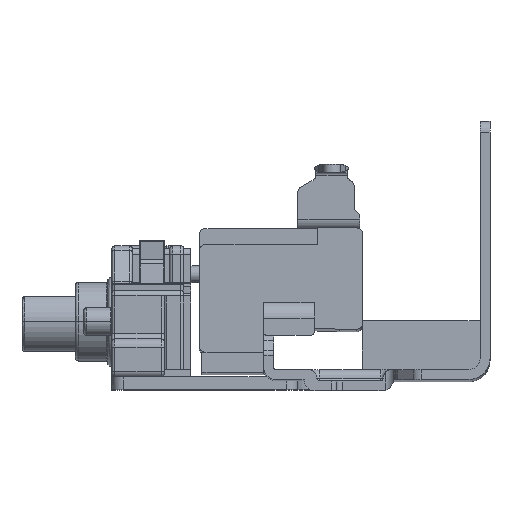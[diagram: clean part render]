
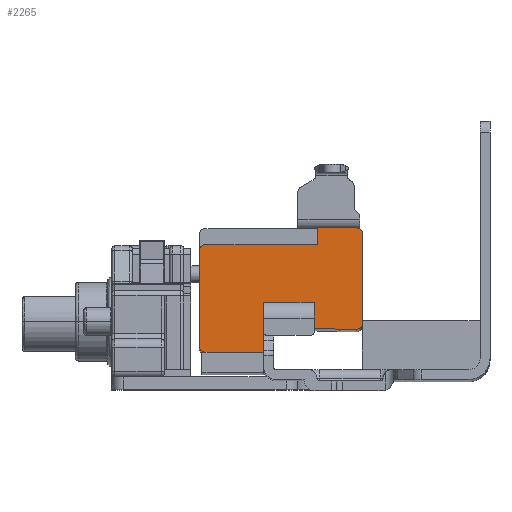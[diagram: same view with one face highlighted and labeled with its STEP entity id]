
A CAD part, top view. The second image highlights one B-rep face of the part: STEP entity #2265.
In plain terms, the highlighted planar face has unit normal (0, 0, 1).
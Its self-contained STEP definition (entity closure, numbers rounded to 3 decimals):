
#111 = EDGE_CURVE ( 'NONE', #4238, #11087, #10641, .T. ) ;
#129 = DIRECTION ( 'NONE',  ( -1., 0., 0. ) ) ;
#180 = DIRECTION ( 'NONE',  ( 1., 0., 0. ) ) ;
#219 = EDGE_CURVE ( 'NONE', #11087, #12393, #5636, .T. ) ;
#357 = AXIS2_PLACEMENT_3D ( 'NONE', #11748, #3433, #13165 ) ;
#392 = VERTEX_POINT ( 'NONE', #7450 ) ;
#408 = DIRECTION ( 'NONE',  ( 0., 1., 0. ) ) ;
#458 = ORIENTED_EDGE ( 'NONE', *, *, #13983, .F. ) ;
#497 = ORIENTED_EDGE ( 'NONE', *, *, #219, .T. ) ;
#614 = VECTOR ( 'NONE', #1026, 1000. ) ;
#852 = DIRECTION ( 'NONE',  ( 0., 0., 1. ) ) ;
#936 = VERTEX_POINT ( 'NONE', #13074 ) ;
#1026 = DIRECTION ( 'NONE',  ( -1., 0., 0. ) ) ;
#1141 = VERTEX_POINT ( 'NONE', #8180 ) ;
#1375 = CARTESIAN_POINT ( 'NONE',  ( -72.63, -13.752, -15.97 ) ) ;
#1601 = ORIENTED_EDGE ( 'NONE', *, *, #9118, .F. ) ;
#1666 = ORIENTED_EDGE ( 'NONE', *, *, #10117, .F. ) ;
#1751 = CARTESIAN_POINT ( 'NONE',  ( -71.66, -0.252, -15.97 ) ) ;
#1811 = CARTESIAN_POINT ( 'NONE',  ( -43.6, 1.748, -15.97 ) ) ;
#1894 = CARTESIAN_POINT ( 'NONE',  ( -47.67, -15.252, -15.97 ) ) ;
#1940 = VECTOR ( 'NONE', #16917, 1000. ) ;
#1994 = AXIS2_PLACEMENT_3D ( 'NONE', #6891, #16671, #8300 ) ;
#2265 = ADVANCED_FACE ( 'NONE', ( #3869 ), #17532, .T. ) ;
#2323 = EDGE_CURVE ( 'NONE', #9808, #9084, #10384, .T. ) ;
#2502 = CARTESIAN_POINT ( 'NONE',  ( -43.6, -6.222, -15.97 ) ) ;
#2531 = VERTEX_POINT ( 'NONE', #1751 ) ;
#2638 = CARTESIAN_POINT ( 'NONE',  ( -51.6, -0.252, -15.97 ) ) ;
#2831 = AXIS2_PLACEMENT_3D ( 'NONE', #5687, #15460, #7073 ) ;
#2980 = CARTESIAN_POINT ( 'NONE',  ( -72.63, -1.222, -15.97 ) ) ;
#3230 = CARTESIAN_POINT ( 'NONE',  ( -52.2, -10.442, -15.97 ) ) ;
#3433 = DIRECTION ( 'NONE',  ( 0., 0., -1. ) ) ;
#3502 = ORIENTED_EDGE ( 'NONE', *, *, #111, .T. ) ;
#3573 = CARTESIAN_POINT ( 'NONE',  ( -71.63, -13.752, -15.97 ) ) ;
#3581 = EDGE_CURVE ( 'NONE', #392, #4210, #15389, .T. ) ;
#3738 = VERTEX_POINT ( 'NONE', #3230 ) ;
#3869 = FACE_OUTER_BOUND ( 'NONE', #11071, .T. ) ;
#3903 = DIRECTION ( 'NONE',  ( 0., -1., 0. ) ) ;
#4029 = DIRECTION ( 'NONE',  ( 0., 1., 0. ) ) ;
#4210 = VERTEX_POINT ( 'NONE', #12700 ) ;
#4238 = VERTEX_POINT ( 'NONE', #14180 ) ;
#4282 = LINE ( 'NONE', #4449, #7107 ) ;
#4449 = CARTESIAN_POINT ( 'NONE',  ( -61.2, -1.252, -15.97 ) ) ;
#4471 = LINE ( 'NONE', #7317, #11008 ) ;
#5217 = CARTESIAN_POINT ( 'NONE',  ( -41.8, -0.252, -15.97 ) ) ;
#5636 = LINE ( 'NONE', #8314, #1940 ) ;
#5687 = CARTESIAN_POINT ( 'NONE',  ( -71.66, -1.222, -15.97 ) ) ;
#5704 = CARTESIAN_POINT ( 'NONE',  ( -59.43, -10.442, -15.97 ) ) ;
#5859 = DIRECTION ( 'NONE',  ( 0., 1., 0. ) ) ;
#5890 = VERTEX_POINT ( 'NONE', #16295 ) ;
#6057 = EDGE_CURVE ( 'NONE', #936, #17496, #10599, .T. ) ;
#6267 = VECTOR ( 'NONE', #180, 1000. ) ;
#6554 = DIRECTION ( 'NONE',  ( 0., 0., -1. ) ) ;
#6891 = CARTESIAN_POINT ( 'NONE',  ( -44.6, 1.748, -15.97 ) ) ;
#6928 = VECTOR ( 'NONE', #129, 1000. ) ;
#7017 = ORIENTED_EDGE ( 'NONE', *, *, #11424, .T. ) ;
#7070 = CIRCLE ( 'NONE', #1994, 1. ) ;
#7073 = DIRECTION ( 'NONE',  ( -1., 0., 0. ) ) ;
#7107 = VECTOR ( 'NONE', #5859, 1000. ) ;
#7168 = ORIENTED_EDGE ( 'NONE', *, *, #11763, .F. ) ;
#7317 = CARTESIAN_POINT ( 'NONE',  ( -52.2, -12.102, -15.97 ) ) ;
#7450 = CARTESIAN_POINT ( 'NONE',  ( -51.6, -0.252, -15.97 ) ) ;
#7512 = VECTOR ( 'NONE', #4029, 1000. ) ;
#7646 = ORIENTED_EDGE ( 'NONE', *, *, #14228, .F. ) ;
#7896 = AXIS2_PLACEMENT_3D ( 'NONE', #14920, #6554, #16325 ) ;
#8180 = CARTESIAN_POINT ( 'NONE',  ( -43.6, -14.252, -15.97 ) ) ;
#8274 = VERTEX_POINT ( 'NONE', #1811 ) ;
#8300 = DIRECTION ( 'NONE',  ( -1., 0., 0. ) ) ;
#8314 = CARTESIAN_POINT ( 'NONE',  ( -59.43, -14.951, -15.97 ) ) ;
#8412 = DIRECTION ( 'NONE',  ( 0., 1., 0. ) ) ;
#8611 = LINE ( 'NONE', #5217, #11878 ) ;
#8700 = ORIENTED_EDGE ( 'NONE', *, *, #10687, .T. ) ;
#8817 = LINE ( 'NONE', #17767, #15834 ) ;
#8896 = CARTESIAN_POINT ( 'NONE',  ( -61.2, -19.352, -15.97 ) ) ;
#9038 = CIRCLE ( 'NONE', #2831, 0.97 ) ;
#9084 = VERTEX_POINT ( 'NONE', #12098 ) ;
#9118 = EDGE_CURVE ( 'NONE', #8274, #1141, #16861, .T. ) ;
#9580 = EDGE_CURVE ( 'NONE', #5890, #3738, #9969, .T. ) ;
#9670 = DIRECTION ( 'NONE',  ( -1., 0., 0. ) ) ;
#9769 = VECTOR ( 'NONE', #17124, 1000. ) ;
#9808 = VERTEX_POINT ( 'NONE', #8896 ) ;
#9969 = LINE ( 'NONE', #5704, #6267 ) ;
#10117 = EDGE_CURVE ( 'NONE', #1141, #12424, #14997, .T. ) ;
#10384 = LINE ( 'NONE', #13501, #614 ) ;
#10566 = DIRECTION ( 'NONE',  ( -1., 0., 0. ) ) ;
#10599 = LINE ( 'NONE', #1375, #13895 ) ;
#10641 = LINE ( 'NONE', #15425, #6928 ) ;
#10687 = EDGE_CURVE ( 'NONE', #9808, #5890, #4282, .T. ) ;
#10734 = DIRECTION ( 'NONE',  ( 1., 0., 0. ) ) ;
#11008 = VECTOR ( 'NONE', #408, 1000. ) ;
#11071 = EDGE_LOOP ( 'NONE', ( #17793, #7017, #12644, #13702, #7646, #15138, #8700, #11187, #12575, #3502, #497, #458, #16363, #1666, #1601, #7168, #15674 ) ) ;
#11081 = EDGE_CURVE ( 'NONE', #12424, #11320, #16280, .T. ) ;
#11087 = VERTEX_POINT ( 'NONE', #12480 ) ;
#11187 = ORIENTED_EDGE ( 'NONE', *, *, #9580, .T. ) ;
#11320 = VERTEX_POINT ( 'NONE', #1894 ) ;
#11424 = EDGE_CURVE ( 'NONE', #392, #2531, #8611, .T. ) ;
#11663 = EDGE_CURVE ( 'NONE', #4210, #15784, #8817, .T. ) ;
#11748 = CARTESIAN_POINT ( 'NONE',  ( -44.6, -14.252, -15.97 ) ) ;
#11763 = EDGE_CURVE ( 'NONE', #15784, #8274, #7070, .T. ) ;
#11784 = CARTESIAN_POINT ( 'NONE',  ( -44.6, -15.252, -15.97 ) ) ;
#11878 = VECTOR ( 'NONE', #13578, 1000. ) ;
#12098 = CARTESIAN_POINT ( 'NONE',  ( -71.63, -19.352, -15.97 ) ) ;
#12393 = VERTEX_POINT ( 'NONE', #13217 ) ;
#12424 = VERTEX_POINT ( 'NONE', #11784 ) ;
#12480 = CARTESIAN_POINT ( 'NONE',  ( -59.43, -12.102, -15.97 ) ) ;
#12575 = ORIENTED_EDGE ( 'NONE', *, *, #16610, .F. ) ;
#12644 = ORIENTED_EDGE ( 'NONE', *, *, #16469, .F. ) ;
#12700 = CARTESIAN_POINT ( 'NONE',  ( -51.6, 2.748, -15.97 ) ) ;
#13074 = CARTESIAN_POINT ( 'NONE',  ( -72.63, -18.352, -15.97 ) ) ;
#13137 = VECTOR ( 'NONE', #3903, 1000. ) ;
#13165 = DIRECTION ( 'NONE',  ( -1., 0., 0. ) ) ;
#13217 = CARTESIAN_POINT ( 'NONE',  ( -59.43, -14.951, -15.97 ) ) ;
#13501 = CARTESIAN_POINT ( 'NONE',  ( -41.05, -19.352, -15.97 ) ) ;
#13578 = DIRECTION ( 'NONE',  ( -1., 0., 0. ) ) ;
#13702 = ORIENTED_EDGE ( 'NONE', *, *, #6057, .F. ) ;
#13843 = CARTESIAN_POINT ( 'NONE',  ( -41.05, -15.252, -15.97 ) ) ;
#13895 = VECTOR ( 'NONE', #8412, 1000. ) ;
#13945 = LINE ( 'NONE', #15740, #9769 ) ;
#13983 = EDGE_CURVE ( 'NONE', #11320, #12393, #13945, .T. ) ;
#14180 = CARTESIAN_POINT ( 'NONE',  ( -52.2, -12.102, -15.97 ) ) ;
#14228 = EDGE_CURVE ( 'NONE', #9084, #936, #17423, .T. ) ;
#14920 = CARTESIAN_POINT ( 'NONE',  ( -71.63, -18.352, -15.97 ) ) ;
#14997 = CIRCLE ( 'NONE', #357, 1. ) ;
#15138 = ORIENTED_EDGE ( 'NONE', *, *, #2323, .F. ) ;
#15389 = LINE ( 'NONE', #2638, #7512 ) ;
#15425 = CARTESIAN_POINT ( 'NONE',  ( -52.2, -12.102, -15.97 ) ) ;
#15460 = DIRECTION ( 'NONE',  ( 0., 0., -1. ) ) ;
#15674 = ORIENTED_EDGE ( 'NONE', *, *, #11663, .F. ) ;
#15740 = CARTESIAN_POINT ( 'NONE',  ( -41.412, -15.412, -15.97 ) ) ;
#15784 = VERTEX_POINT ( 'NONE', #16154 ) ;
#15834 = VECTOR ( 'NONE', #10734, 1000. ) ;
#15850 = VECTOR ( 'NONE', #9670, 1000. ) ;
#16154 = CARTESIAN_POINT ( 'NONE',  ( -44.6, 2.748, -15.97 ) ) ;
#16280 = LINE ( 'NONE', #13843, #15850 ) ;
#16295 = CARTESIAN_POINT ( 'NONE',  ( -61.2, -10.442, -15.97 ) ) ;
#16325 = DIRECTION ( 'NONE',  ( -1., 0., 0. ) ) ;
#16363 = ORIENTED_EDGE ( 'NONE', *, *, #11081, .F. ) ;
#16469 = EDGE_CURVE ( 'NONE', #17496, #2531, #9038, .T. ) ;
#16610 = EDGE_CURVE ( 'NONE', #4238, #3738, #4471, .T. ) ;
#16671 = DIRECTION ( 'NONE',  ( 0., 0., -1. ) ) ;
#16861 = LINE ( 'NONE', #2502, #13137 ) ;
#16917 = DIRECTION ( 'NONE',  ( 0., -1., 0. ) ) ;
#17124 = DIRECTION ( 'NONE',  ( -1., 0.026, 0. ) ) ;
#17423 = CIRCLE ( 'NONE', #7896, 1. ) ;
#17496 = VERTEX_POINT ( 'NONE', #2980 ) ;
#17532 = PLANE ( 'NONE',  #17792 ) ;
#17767 = CARTESIAN_POINT ( 'NONE',  ( -49.4, 2.748, -15.97 ) ) ;
#17792 = AXIS2_PLACEMENT_3D ( 'NONE', #3573, #852, #10566 ) ;
#17793 = ORIENTED_EDGE ( 'NONE', *, *, #3581, .F. ) ;
